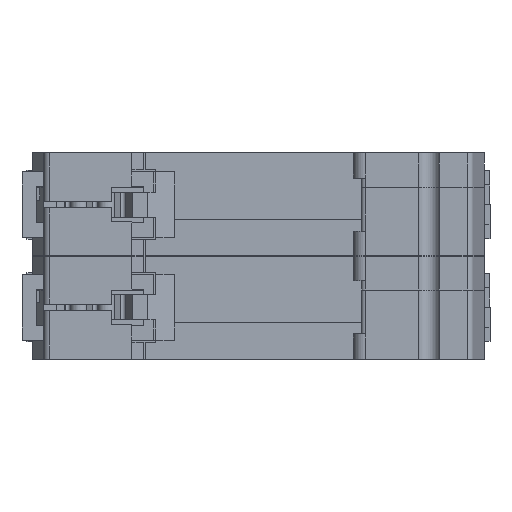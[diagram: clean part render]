
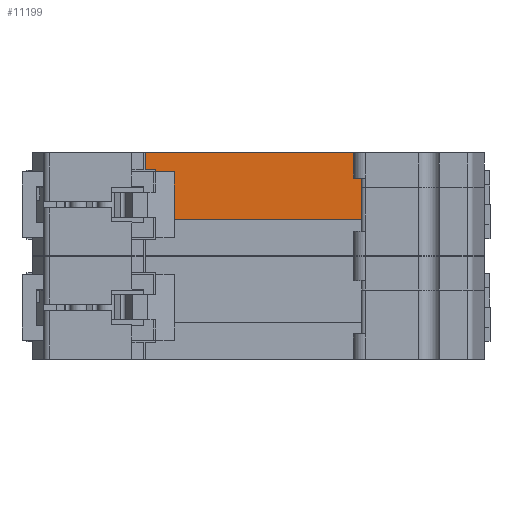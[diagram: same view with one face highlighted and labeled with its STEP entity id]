
A CAD part, front view. The second image highlights one B-rep face of the part: STEP entity #11199.
In plain terms, the highlighted planar face has unit normal (0, -1, 0).
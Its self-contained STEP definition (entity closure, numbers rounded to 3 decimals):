
#324 = ORIENTED_EDGE ( 'NONE', *, *, #13713, .F. ) ;
#622 = DIRECTION ( 'NONE',  ( 0., 0., 1. ) ) ;
#624 = CARTESIAN_POINT ( 'NONE',  ( 26.2, -55.95, -5.8 ) ) ;
#701 = EDGE_CURVE ( 'NONE', #10036, #3277, #2387, .T. ) ;
#820 = CARTESIAN_POINT ( 'NONE',  ( 29.2, -55.95, -11.3 ) ) ;
#994 = DIRECTION ( 'NONE',  ( 1., 0., 0. ) ) ;
#2248 = DIRECTION ( 'NONE',  ( 0., -1., 0. ) ) ;
#2387 = LINE ( 'NONE', #13966, #8043 ) ;
#2674 = LINE ( 'NONE', #10007, #22275 ) ;
#3277 = VERTEX_POINT ( 'NONE', #820 ) ;
#3765 = LINE ( 'NONE', #17890, #5702 ) ;
#3980 = PLANE ( 'NONE',  #8918 ) ;
#5002 = VECTOR ( 'NONE', #19111, 1000. ) ;
#5161 = CARTESIAN_POINT ( 'NONE',  ( -8.9, -55.95, -2.8 ) ) ;
#5455 = VECTOR ( 'NONE', #18393, 1000. ) ;
#5702 = VECTOR ( 'NONE', #23071, 1000. ) ;
#5877 = DIRECTION ( 'NONE',  ( -1., 0., 0. ) ) ;
#6088 = LINE ( 'NONE', #20279, #7481 ) ;
#6386 = ORIENTED_EDGE ( 'NONE', *, *, #701, .F. ) ;
#6701 = FACE_OUTER_BOUND ( 'NONE', #22134, .T. ) ;
#6762 = CARTESIAN_POINT ( 'NONE',  ( 26.2, -55.95, -8.75 ) ) ;
#7083 = CARTESIAN_POINT ( 'NONE',  ( -10.7, -55.95, -2.8 ) ) ;
#7466 = EDGE_CURVE ( 'NONE', #20804, #17828, #18503, .T. ) ;
#7481 = VECTOR ( 'NONE', #13152, 1000. ) ;
#8043 = VECTOR ( 'NONE', #21094, 1000. ) ;
#8918 = AXIS2_PLACEMENT_3D ( 'NONE', #12964, #2248, #18371 ) ;
#9036 = CARTESIAN_POINT ( 'NONE',  ( -10.7, -55.95, 0.1 ) ) ;
#10007 = CARTESIAN_POINT ( 'NONE',  ( 29.2, -55.95, -5.8 ) ) ;
#10036 = VERTEX_POINT ( 'NONE', #22432 ) ;
#10369 = ORIENTED_EDGE ( 'NONE', *, *, #14554, .F. ) ;
#10841 = VERTEX_POINT ( 'NONE', #18858 ) ;
#10905 = ORIENTED_EDGE ( 'NONE', *, *, #21782, .T. ) ;
#11199 = ADVANCED_FACE ( 'NONE', ( #6701 ), #3980, .T. ) ;
#11298 = CARTESIAN_POINT ( 'NONE',  ( 29.2, -55.95, -11.3 ) ) ;
#11485 = CARTESIAN_POINT ( 'NONE',  ( -10.7, -55.95, -2.8 ) ) ;
#11994 = CARTESIAN_POINT ( 'NONE',  ( -8.9, -55.95, -11.3 ) ) ;
#12450 = EDGE_CURVE ( 'NONE', #12914, #20804, #17799, .T. ) ;
#12608 = ORIENTED_EDGE ( 'NONE', *, *, #12450, .F. ) ;
#12914 = VERTEX_POINT ( 'NONE', #5161 ) ;
#12964 = CARTESIAN_POINT ( 'NONE',  ( -11., -55.95, -8.75 ) ) ;
#13152 = DIRECTION ( 'NONE',  ( 0., 0., 1. ) ) ;
#13713 = EDGE_CURVE ( 'NONE', #17441, #10036, #2674, .T. ) ;
#13783 = EDGE_CURVE ( 'NONE', #3277, #19530, #22816, .T. ) ;
#13966 = CARTESIAN_POINT ( 'NONE',  ( 29.2, -55.95, 81.465 ) ) ;
#14021 = VECTOR ( 'NONE', #622, 1000. ) ;
#14243 = ORIENTED_EDGE ( 'NONE', *, *, #13783, .F. ) ;
#14346 = ORIENTED_EDGE ( 'NONE', *, *, #16269, .F. ) ;
#14554 = EDGE_CURVE ( 'NONE', #17828, #10841, #3765, .T. ) ;
#14697 = VECTOR ( 'NONE', #5877, 1000. ) ;
#15077 = CARTESIAN_POINT ( 'NONE',  ( -11., -55.95, -2.8 ) ) ;
#16269 = EDGE_CURVE ( 'NONE', #19530, #12914, #6088, .T. ) ;
#17441 = VERTEX_POINT ( 'NONE', #624 ) ;
#17799 = LINE ( 'NONE', #15077, #14697 ) ;
#17828 = VERTEX_POINT ( 'NONE', #9036 ) ;
#17855 = LINE ( 'NONE', #6762, #5002 ) ;
#17890 = CARTESIAN_POINT ( 'NONE',  ( -10.7, -55.95, 0.1 ) ) ;
#18371 = DIRECTION ( 'NONE',  ( 0., 0., -1. ) ) ;
#18393 = DIRECTION ( 'NONE',  ( -1., 0., 0. ) ) ;
#18503 = LINE ( 'NONE', #11485, #14021 ) ;
#18858 = CARTESIAN_POINT ( 'NONE',  ( 26.2, -55.95, 0.1 ) ) ;
#19111 = DIRECTION ( 'NONE',  ( 0., 0., 1. ) ) ;
#19530 = VERTEX_POINT ( 'NONE', #11994 ) ;
#20279 = CARTESIAN_POINT ( 'NONE',  ( -8.9, -55.95, -8.75 ) ) ;
#20804 = VERTEX_POINT ( 'NONE', #7083 ) ;
#21094 = DIRECTION ( 'NONE',  ( 0., 0., -1. ) ) ;
#21782 = EDGE_CURVE ( 'NONE', #17441, #10841, #17855, .T. ) ;
#22134 = EDGE_LOOP ( 'NONE', ( #10905, #10369, #22853, #12608, #14346, #14243, #6386, #324 ) ) ;
#22275 = VECTOR ( 'NONE', #994, 1000. ) ;
#22432 = CARTESIAN_POINT ( 'NONE',  ( 29.2, -55.95, -5.8 ) ) ;
#22816 = LINE ( 'NONE', #11298, #5455 ) ;
#22853 = ORIENTED_EDGE ( 'NONE', *, *, #7466, .F. ) ;
#23071 = DIRECTION ( 'NONE',  ( 1., 0., 0. ) ) ;
